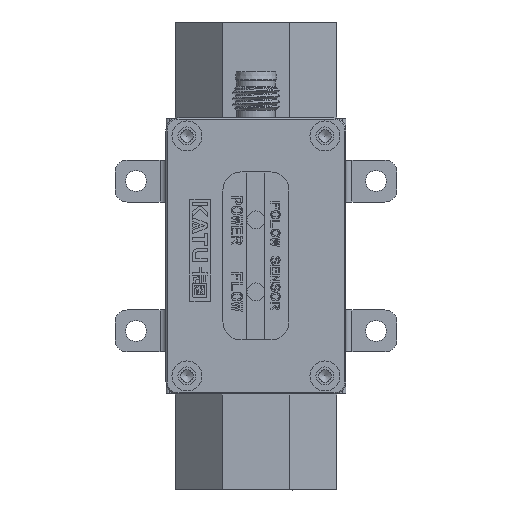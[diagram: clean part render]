
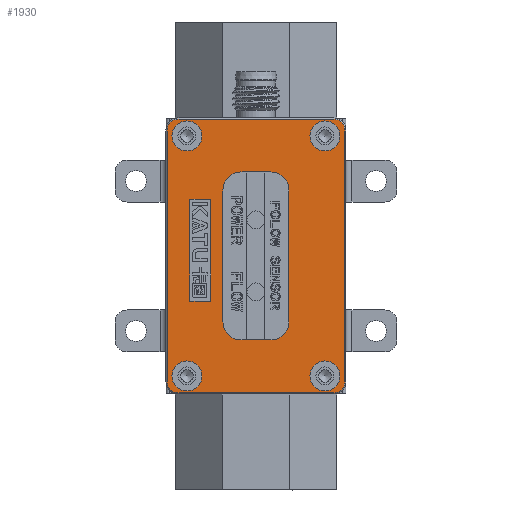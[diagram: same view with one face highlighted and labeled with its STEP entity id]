
A CAD part, front view. The second image highlights one B-rep face of the part: STEP entity #1930.
In plain terms, the highlighted planar face has unit normal (0, -1, 0).
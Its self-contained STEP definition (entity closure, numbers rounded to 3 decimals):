
#747=FACE_BOUND('',#4908,.T.);
#748=FACE_BOUND('',#4909,.T.);
#749=FACE_BOUND('',#4910,.T.);
#750=FACE_BOUND('',#4911,.T.);
#751=FACE_BOUND('',#4912,.T.);
#752=FACE_BOUND('',#4913,.T.);
#753=FACE_BOUND('',#4914,.T.);
#1205=CIRCLE('',#21708,3.);
#1206=CIRCLE('',#21709,3.);
#1207=CIRCLE('',#21710,3.);
#1208=CIRCLE('',#21711,3.);
#1209=CIRCLE('',#21712,1.8);
#1210=CIRCLE('',#21713,1.8);
#1211=CIRCLE('',#21714,1.8);
#1212=CIRCLE('',#21715,1.8);
#1213=CIRCLE('',#21716,2.5);
#1214=CIRCLE('',#21717,2.5);
#1215=CIRCLE('',#21718,2.5);
#1216=CIRCLE('',#21719,2.5);
#1930=ADVANCED_FACE('',(#747,#748,#749,#750,#751,#752,#753),#2951,.F.);
#2951=PLANE('',#21720);
#4908=EDGE_LOOP('',(#12369,#12370,#12371,#12372,#12373,#12374,#12375,#12376));
#4909=EDGE_LOOP('',(#12377,#12378,#12379,#12380,#12381,#12382,#12383,#12384));
#4910=EDGE_LOOP('',(#12385));
#4911=EDGE_LOOP('',(#12386));
#4912=EDGE_LOOP('',(#12387));
#4913=EDGE_LOOP('',(#12388));
#4914=EDGE_LOOP('',(#12389,#12390,#12391,#12392));
#6719=LINE('',#34579,#8844);
#6720=LINE('',#34584,#8845);
#6721=LINE('',#34588,#8846);
#6722=LINE('',#34592,#8847);
#6723=LINE('',#34595,#8848);
#6724=LINE('',#34600,#8849);
#6725=LINE('',#34604,#8850);
#6726=LINE('',#34608,#8851);
#6727=LINE('',#34619,#8852);
#6728=LINE('',#34622,#8853);
#6729=LINE('',#34624,#8854);
#6730=LINE('',#34626,#8855);
#8844=VECTOR('',#24684,1.);
#8845=VECTOR('',#24687,1.);
#8846=VECTOR('',#24690,1.);
#8847=VECTOR('',#24693,1.);
#8848=VECTOR('',#24696,1.);
#8849=VECTOR('',#24699,1.);
#8850=VECTOR('',#24702,1.);
#8851=VECTOR('',#24705,1.);
#8852=VECTOR('',#24716,1.);
#8853=VECTOR('',#24717,1.);
#8854=VECTOR('',#24718,1.);
#8855=VECTOR('',#24719,1.);
#12369=ORIENTED_EDGE('',*,*,#19096,.F.);
#12370=ORIENTED_EDGE('',*,*,#19097,.F.);
#12371=ORIENTED_EDGE('',*,*,#19098,.F.);
#12372=ORIENTED_EDGE('',*,*,#19099,.F.);
#12373=ORIENTED_EDGE('',*,*,#19100,.F.);
#12374=ORIENTED_EDGE('',*,*,#19101,.F.);
#12375=ORIENTED_EDGE('',*,*,#19102,.F.);
#12376=ORIENTED_EDGE('',*,*,#19103,.F.);
#12377=ORIENTED_EDGE('',*,*,#19104,.T.);
#12378=ORIENTED_EDGE('',*,*,#19105,.T.);
#12379=ORIENTED_EDGE('',*,*,#19106,.T.);
#12380=ORIENTED_EDGE('',*,*,#19107,.T.);
#12381=ORIENTED_EDGE('',*,*,#19108,.T.);
#12382=ORIENTED_EDGE('',*,*,#19109,.T.);
#12383=ORIENTED_EDGE('',*,*,#19110,.T.);
#12384=ORIENTED_EDGE('',*,*,#19111,.T.);
#12385=ORIENTED_EDGE('',*,*,#19112,.T.);
#12386=ORIENTED_EDGE('',*,*,#19113,.T.);
#12387=ORIENTED_EDGE('',*,*,#19114,.T.);
#12388=ORIENTED_EDGE('',*,*,#19115,.T.);
#12389=ORIENTED_EDGE('',*,*,#19116,.F.);
#12390=ORIENTED_EDGE('',*,*,#19117,.F.);
#12391=ORIENTED_EDGE('',*,*,#19118,.F.);
#12392=ORIENTED_EDGE('',*,*,#19119,.F.);
#16797=VERTEX_POINT('',#34580);
#16798=VERTEX_POINT('',#34581);
#16799=VERTEX_POINT('',#34583);
#16800=VERTEX_POINT('',#34585);
#16801=VERTEX_POINT('',#34587);
#16802=VERTEX_POINT('',#34589);
#16803=VERTEX_POINT('',#34591);
#16804=VERTEX_POINT('',#34593);
#16805=VERTEX_POINT('',#34596);
#16806=VERTEX_POINT('',#34597);
#16807=VERTEX_POINT('',#34599);
#16808=VERTEX_POINT('',#34601);
#16809=VERTEX_POINT('',#34603);
#16810=VERTEX_POINT('',#34605);
#16811=VERTEX_POINT('',#34607);
#16812=VERTEX_POINT('',#34609);
#16813=VERTEX_POINT('',#34612);
#16814=VERTEX_POINT('',#34614);
#16815=VERTEX_POINT('',#34616);
#16816=VERTEX_POINT('',#34618);
#16817=VERTEX_POINT('',#34620);
#16818=VERTEX_POINT('',#34621);
#16819=VERTEX_POINT('',#34623);
#16820=VERTEX_POINT('',#34625);
#19096=EDGE_CURVE('',#16797,#16798,#6719,.T.);
#19097=EDGE_CURVE('',#16799,#16797,#1205,.T.);
#19098=EDGE_CURVE('',#16800,#16799,#6720,.T.);
#19099=EDGE_CURVE('',#16801,#16800,#1206,.T.);
#19100=EDGE_CURVE('',#16802,#16801,#6721,.T.);
#19101=EDGE_CURVE('',#16803,#16802,#1207,.T.);
#19102=EDGE_CURVE('',#16804,#16803,#6722,.T.);
#19103=EDGE_CURVE('',#16798,#16804,#1208,.T.);
#19104=EDGE_CURVE('',#16805,#16806,#6723,.T.);
#19105=EDGE_CURVE('',#16806,#16807,#1209,.T.);
#19106=EDGE_CURVE('',#16807,#16808,#6724,.T.);
#19107=EDGE_CURVE('',#16808,#16809,#1210,.T.);
#19108=EDGE_CURVE('',#16809,#16810,#6725,.T.);
#19109=EDGE_CURVE('',#16810,#16811,#1211,.T.);
#19110=EDGE_CURVE('',#16811,#16812,#6726,.T.);
#19111=EDGE_CURVE('',#16812,#16805,#1212,.T.);
#19112=EDGE_CURVE('',#16813,#16813,#1213,.T.);
#19113=EDGE_CURVE('',#16814,#16814,#1214,.T.);
#19114=EDGE_CURVE('',#16815,#16815,#1215,.T.);
#19115=EDGE_CURVE('',#16816,#16816,#1216,.T.);
#19116=EDGE_CURVE('',#16817,#16818,#6727,.T.);
#19117=EDGE_CURVE('',#16819,#16817,#6728,.T.);
#19118=EDGE_CURVE('',#16820,#16819,#6729,.T.);
#19119=EDGE_CURVE('',#16818,#16820,#6730,.T.);
#21708=AXIS2_PLACEMENT_3D('',#34582,#24685,#24686);
#21709=AXIS2_PLACEMENT_3D('',#34586,#24688,#24689);
#21710=AXIS2_PLACEMENT_3D('',#34590,#24691,#24692);
#21711=AXIS2_PLACEMENT_3D('',#34594,#24694,#24695);
#21712=AXIS2_PLACEMENT_3D('',#34598,#24697,#24698);
#21713=AXIS2_PLACEMENT_3D('',#34602,#24700,#24701);
#21714=AXIS2_PLACEMENT_3D('',#34606,#24703,#24704);
#21715=AXIS2_PLACEMENT_3D('',#34610,#24706,#24707);
#21716=AXIS2_PLACEMENT_3D('',#34611,#24708,#24709);
#21717=AXIS2_PLACEMENT_3D('',#34613,#24710,#24711);
#21718=AXIS2_PLACEMENT_3D('',#34615,#24712,#24713);
#21719=AXIS2_PLACEMENT_3D('',#34617,#24714,#24715);
#21720=AXIS2_PLACEMENT_3D('',#34627,#24720,#24721);
#24684=DIRECTION('',(0.,0.,-1.));
#24685=DIRECTION('',(0.,-1.,0.));
#24686=DIRECTION('',(0.,0.,1.));
#24687=DIRECTION('',(-1.,0.,0.));
#24688=DIRECTION('',(0.,-1.,0.));
#24689=DIRECTION('',(0.,0.,1.));
#24690=DIRECTION('',(0.,0.,1.));
#24691=DIRECTION('',(0.,-1.,0.));
#24692=DIRECTION('',(0.,0.,1.));
#24693=DIRECTION('',(1.,0.,0.));
#24694=DIRECTION('',(0.,-1.,0.));
#24695=DIRECTION('',(0.,0.,1.));
#24696=DIRECTION('',(0.,0.,-1.));
#24697=DIRECTION('',(0.,-1.,0.));
#24698=DIRECTION('',(0.,0.,1.));
#24699=DIRECTION('',(1.,0.,0.));
#24700=DIRECTION('',(0.,-1.,0.));
#24701=DIRECTION('',(0.,0.,1.));
#24702=DIRECTION('',(0.,0.,1.));
#24703=DIRECTION('',(0.,-1.,0.));
#24704=DIRECTION('',(0.,0.,1.));
#24705=DIRECTION('',(-1.,0.,0.));
#24706=DIRECTION('',(0.,-1.,0.));
#24707=DIRECTION('',(0.,0.,1.));
#24708=DIRECTION('',(0.,1.,0.));
#24709=DIRECTION('',(0.,0.,1.));
#24710=DIRECTION('',(0.,1.,0.));
#24711=DIRECTION('',(0.,0.,1.));
#24712=DIRECTION('',(0.,1.,0.));
#24713=DIRECTION('',(0.,0.,1.));
#24714=DIRECTION('',(0.,1.,0.));
#24715=DIRECTION('',(0.,0.,1.));
#24716=DIRECTION('',(0.,0.,-1.));
#24717=DIRECTION('',(-1.,0.,0.));
#24718=DIRECTION('',(0.,0.,1.));
#24719=DIRECTION('',(1.,0.,0.));
#24720=DIRECTION('',(0.,1.,0.));
#24721=DIRECTION('',(0.,0.,1.));
#34579=CARTESIAN_POINT('',(-10.5,-29.,-5.));
#34580=CARTESIAN_POINT('',(-10.5,-29.,-5.));
#34581=CARTESIAN_POINT('',(-10.5,-29.,-27.));
#34582=CARTESIAN_POINT('',(-7.5,-29.,-5.));
#34583=CARTESIAN_POINT('',(-7.5,-29.,-2.));
#34584=CARTESIAN_POINT('',(-4.,-29.,-2.));
#34585=CARTESIAN_POINT('',(-2.5,-29.,-2.));
#34586=CARTESIAN_POINT('',(-2.5,-29.,-5.));
#34587=CARTESIAN_POINT('',(0.5,-29.,-5.));
#34588=CARTESIAN_POINT('',(0.5,-29.,-27.));
#34589=CARTESIAN_POINT('',(0.5,-29.,-27.));
#34590=CARTESIAN_POINT('',(-2.5,-29.,-27.));
#34591=CARTESIAN_POINT('',(-2.5,-29.,-30.));
#34592=CARTESIAN_POINT('',(-6.,-29.,-30.));
#34593=CARTESIAN_POINT('',(-7.5,-29.,-30.));
#34594=CARTESIAN_POINT('',(-7.5,-29.,-27.));
#34595=CARTESIAN_POINT('',(-19.8,-29.,-37.));
#34596=CARTESIAN_POINT('',(-19.8,-29.,5.));
#34597=CARTESIAN_POINT('',(-19.8,-29.,-37.));
#34598=CARTESIAN_POINT('',(-18.,-29.,-37.));
#34599=CARTESIAN_POINT('',(-18.,-29.,-38.8));
#34600=CARTESIAN_POINT('',(8.,-29.,-38.8));
#34601=CARTESIAN_POINT('',(8.,-29.,-38.8));
#34602=CARTESIAN_POINT('',(8.,-29.,-37.));
#34603=CARTESIAN_POINT('',(9.8,-29.,-37.));
#34604=CARTESIAN_POINT('',(9.8,-29.,5.));
#34605=CARTESIAN_POINT('',(9.8,-29.,5.));
#34606=CARTESIAN_POINT('',(8.,-29.,5.));
#34607=CARTESIAN_POINT('',(8.,-29.,6.8));
#34608=CARTESIAN_POINT('',(-18.,-29.,6.8));
#34609=CARTESIAN_POINT('',(-18.,-29.,6.8));
#34610=CARTESIAN_POINT('',(-18.,-29.,5.));
#34611=CARTESIAN_POINT('',(-16.5,-29.,4.));
#34612=CARTESIAN_POINT('',(-16.5,-29.,6.5));
#34613=CARTESIAN_POINT('',(-16.5,-29.,-36.));
#34614=CARTESIAN_POINT('',(-16.5,-29.,-33.5));
#34615=CARTESIAN_POINT('',(6.5,-29.,-36.));
#34616=CARTESIAN_POINT('',(6.5,-29.,-33.5));
#34617=CARTESIAN_POINT('',(6.5,-29.,4.));
#34618=CARTESIAN_POINT('',(6.5,-29.,6.5));
#34619=CARTESIAN_POINT('',(-16.04,-29.,-6.543));
#34620=CARTESIAN_POINT('',(-16.04,-29.,-6.543));
#34621=CARTESIAN_POINT('',(-16.04,-29.,-23.543));
#34622=CARTESIAN_POINT('',(-12.54,-29.,-6.543));
#34623=CARTESIAN_POINT('',(-12.54,-29.,-6.543));
#34624=CARTESIAN_POINT('',(-12.54,-29.,-23.543));
#34625=CARTESIAN_POINT('',(-12.54,-29.,-23.543));
#34626=CARTESIAN_POINT('',(-16.04,-29.,-23.543));
#34627=CARTESIAN_POINT('',(-18.,-29.,-37.));
